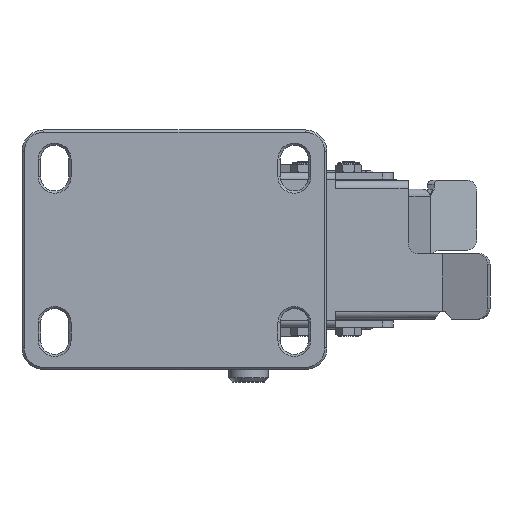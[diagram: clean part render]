
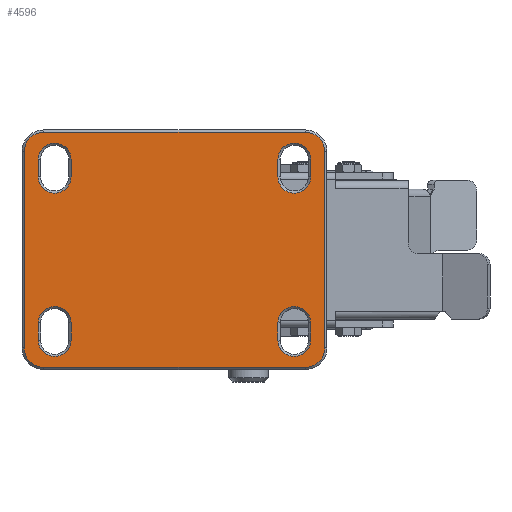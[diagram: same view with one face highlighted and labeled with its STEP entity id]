
A CAD part, top view. The second image highlights one B-rep face of the part: STEP entity #4596.
In plain terms, the highlighted planar face has unit normal (0, 0, 1).
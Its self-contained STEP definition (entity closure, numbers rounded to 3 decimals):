
#1007=PLANE('',#19489);
#1510=FACE_BOUND('',#6782,.T.);
#1511=FACE_BOUND('',#6783,.T.);
#1512=FACE_BOUND('',#6784,.T.);
#1513=FACE_BOUND('',#6785,.T.);
#1514=FACE_BOUND('',#6786,.T.);
#2227=LINE('',#28906,#3411);
#2228=LINE('',#28910,#3412);
#2229=LINE('',#28914,#3413);
#2230=LINE('',#28918,#3414);
#2231=LINE('',#28922,#3415);
#2232=LINE('',#28926,#3416);
#2233=LINE('',#28930,#3417);
#2234=LINE('',#28934,#3418);
#2235=LINE('',#28938,#3419);
#2236=LINE('',#28939,#3420);
#2237=LINE('',#28943,#3421);
#2238=LINE('',#28947,#3422);
#3411=VECTOR('',#22439,1.);
#3412=VECTOR('',#22442,1.);
#3413=VECTOR('',#22445,1.);
#3414=VECTOR('',#22448,1.);
#3415=VECTOR('',#22451,1.);
#3416=VECTOR('',#22454,1.);
#3417=VECTOR('',#22457,1.);
#3418=VECTOR('',#22460,1.);
#3419=VECTOR('',#22463,1.);
#3420=VECTOR('',#22464,1.);
#3421=VECTOR('',#22467,1.);
#3422=VECTOR('',#22470,1.);
#4596=ADVANCED_FACE('',(#1510,#1511,#1512,#1513,#1514),#1007,.T.);
#6782=EDGE_LOOP('',(#8766,#8767,#8768,#8769,#8770,#8771,#8772,#8773));
#6783=EDGE_LOOP('',(#8774,#8775,#8776,#8777));
#6784=EDGE_LOOP('',(#8778,#8779,#8780,#8781));
#6785=EDGE_LOOP('',(#8782,#8783,#8784,#8785));
#6786=EDGE_LOOP('',(#8786,#8787,#8788,#8789));
#8766=ORIENTED_EDGE('',*,*,#15892,.F.);
#8767=ORIENTED_EDGE('',*,*,#15893,.F.);
#8768=ORIENTED_EDGE('',*,*,#15894,.F.);
#8769=ORIENTED_EDGE('',*,*,#15895,.F.);
#8770=ORIENTED_EDGE('',*,*,#15896,.F.);
#8771=ORIENTED_EDGE('',*,*,#15897,.F.);
#8772=ORIENTED_EDGE('',*,*,#15898,.F.);
#8773=ORIENTED_EDGE('',*,*,#15899,.F.);
#8774=ORIENTED_EDGE('',*,*,#15900,.F.);
#8775=ORIENTED_EDGE('',*,*,#15901,.F.);
#8776=ORIENTED_EDGE('',*,*,#15902,.F.);
#8777=ORIENTED_EDGE('',*,*,#15903,.F.);
#8778=ORIENTED_EDGE('',*,*,#15904,.F.);
#8779=ORIENTED_EDGE('',*,*,#15905,.F.);
#8780=ORIENTED_EDGE('',*,*,#15906,.F.);
#8781=ORIENTED_EDGE('',*,*,#15907,.F.);
#8782=ORIENTED_EDGE('',*,*,#15908,.F.);
#8783=ORIENTED_EDGE('',*,*,#15909,.F.);
#8784=ORIENTED_EDGE('',*,*,#15891,.F.);
#8785=ORIENTED_EDGE('',*,*,#15910,.F.);
#8786=ORIENTED_EDGE('',*,*,#15911,.F.);
#8787=ORIENTED_EDGE('',*,*,#15912,.F.);
#8788=ORIENTED_EDGE('',*,*,#15913,.F.);
#8789=ORIENTED_EDGE('',*,*,#15914,.F.);
#13932=VERTEX_POINT('',#28898);
#13933=VERTEX_POINT('',#28900);
#13934=VERTEX_POINT('',#28904);
#13935=VERTEX_POINT('',#28905);
#13936=VERTEX_POINT('',#28907);
#13937=VERTEX_POINT('',#28909);
#13938=VERTEX_POINT('',#28911);
#13939=VERTEX_POINT('',#28913);
#13940=VERTEX_POINT('',#28915);
#13941=VERTEX_POINT('',#28917);
#13942=VERTEX_POINT('',#28920);
#13943=VERTEX_POINT('',#28921);
#13944=VERTEX_POINT('',#28923);
#13945=VERTEX_POINT('',#28925);
#13946=VERTEX_POINT('',#28928);
#13947=VERTEX_POINT('',#28929);
#13948=VERTEX_POINT('',#28931);
#13949=VERTEX_POINT('',#28933);
#13950=VERTEX_POINT('',#28936);
#13951=VERTEX_POINT('',#28937);
#13952=VERTEX_POINT('',#28941);
#13953=VERTEX_POINT('',#28942);
#13954=VERTEX_POINT('',#28944);
#13955=VERTEX_POINT('',#28946);
#15891=EDGE_CURVE('',#13933,#13932,#18377,.T.);
#15892=EDGE_CURVE('',#13934,#13935,#18378,.T.);
#15893=EDGE_CURVE('',#13936,#13934,#2227,.T.);
#15894=EDGE_CURVE('',#13937,#13936,#18379,.T.);
#15895=EDGE_CURVE('',#13938,#13937,#2228,.T.);
#15896=EDGE_CURVE('',#13939,#13938,#18380,.T.);
#15897=EDGE_CURVE('',#13940,#13939,#2229,.T.);
#15898=EDGE_CURVE('',#13941,#13940,#18381,.T.);
#15899=EDGE_CURVE('',#13935,#13941,#2230,.T.);
#15900=EDGE_CURVE('',#13942,#13943,#18382,.T.);
#15901=EDGE_CURVE('',#13944,#13942,#2231,.T.);
#15902=EDGE_CURVE('',#13945,#13944,#18383,.T.);
#15903=EDGE_CURVE('',#13943,#13945,#2232,.T.);
#15904=EDGE_CURVE('',#13946,#13947,#18384,.T.);
#15905=EDGE_CURVE('',#13948,#13946,#2233,.T.);
#15906=EDGE_CURVE('',#13949,#13948,#18385,.T.);
#15907=EDGE_CURVE('',#13947,#13949,#2234,.T.);
#15908=EDGE_CURVE('',#13950,#13951,#18386,.T.);
#15909=EDGE_CURVE('',#13932,#13950,#2235,.T.);
#15910=EDGE_CURVE('',#13951,#13933,#2236,.T.);
#15911=EDGE_CURVE('',#13952,#13953,#18387,.T.);
#15912=EDGE_CURVE('',#13954,#13952,#2237,.T.);
#15913=EDGE_CURVE('',#13955,#13954,#18388,.T.);
#15914=EDGE_CURVE('',#13953,#13955,#2238,.T.);
#18377=CIRCLE('',#19476,7.5);
#18378=CIRCLE('',#19478,9.);
#18379=CIRCLE('',#19479,9.);
#18380=CIRCLE('',#19480,9.);
#18381=CIRCLE('',#19481,9.);
#18382=CIRCLE('',#19482,7.5);
#18383=CIRCLE('',#19483,7.5);
#18384=CIRCLE('',#19484,7.5);
#18385=CIRCLE('',#19485,7.5);
#18386=CIRCLE('',#19486,7.5);
#18387=CIRCLE('',#19487,7.5);
#18388=CIRCLE('',#19488,7.5);
#19476=AXIS2_PLACEMENT_3D('',#28901,#22433,#22434);
#19478=AXIS2_PLACEMENT_3D('',#28903,#22437,#22438);
#19479=AXIS2_PLACEMENT_3D('',#28908,#22440,#22441);
#19480=AXIS2_PLACEMENT_3D('',#28912,#22443,#22444);
#19481=AXIS2_PLACEMENT_3D('',#28916,#22446,#22447);
#19482=AXIS2_PLACEMENT_3D('',#28919,#22449,#22450);
#19483=AXIS2_PLACEMENT_3D('',#28924,#22452,#22453);
#19484=AXIS2_PLACEMENT_3D('',#28927,#22455,#22456);
#19485=AXIS2_PLACEMENT_3D('',#28932,#22458,#22459);
#19486=AXIS2_PLACEMENT_3D('',#28935,#22461,#22462);
#19487=AXIS2_PLACEMENT_3D('',#28940,#22465,#22466);
#19488=AXIS2_PLACEMENT_3D('',#28945,#22468,#22469);
#19489=AXIS2_PLACEMENT_3D('',#28948,#22471,#22472);
#22433=DIRECTION('',(0.,0.,1.));
#22434=DIRECTION('',(1.,0.,0.));
#22437=DIRECTION('',(0.,0.,-1.));
#22438=DIRECTION('',(1.,0.,0.));
#22439=DIRECTION('',(0.,-1.,0.));
#22440=DIRECTION('',(0.,0.,-1.));
#22441=DIRECTION('',(0.,1.,0.));
#22442=DIRECTION('',(1.,0.,0.));
#22443=DIRECTION('',(0.,0.,-1.));
#22444=DIRECTION('',(-1.,0.,0.));
#22445=DIRECTION('',(0.,1.,0.));
#22446=DIRECTION('',(0.,0.,-1.));
#22447=DIRECTION('',(0.,-1.,0.));
#22448=DIRECTION('',(-1.,0.,0.));
#22449=DIRECTION('',(0.,0.,1.));
#22450=DIRECTION('',(-1.,0.,0.));
#22451=DIRECTION('',(0.,-1.,0.));
#22452=DIRECTION('',(0.,0.,1.));
#22453=DIRECTION('',(1.,0.,0.));
#22454=DIRECTION('',(0.,1.,0.));
#22455=DIRECTION('',(0.,0.,1.));
#22456=DIRECTION('',(-1.,0.,0.));
#22457=DIRECTION('',(0.,-1.,0.));
#22458=DIRECTION('',(0.,0.,1.));
#22459=DIRECTION('',(1.,0.,0.));
#22460=DIRECTION('',(0.,1.,0.));
#22461=DIRECTION('',(0.,0.,1.));
#22462=DIRECTION('',(-1.,0.,0.));
#22463=DIRECTION('',(0.,-1.,0.));
#22464=DIRECTION('',(0.,1.,0.));
#22465=DIRECTION('',(0.,0.,1.));
#22466=DIRECTION('',(-1.,0.,0.));
#22467=DIRECTION('',(0.,-1.,0.));
#22468=DIRECTION('',(0.,0.,1.));
#22469=DIRECTION('',(1.,0.,0.));
#22470=DIRECTION('',(0.,1.,0.));
#22471=DIRECTION('',(0.,0.,1.));
#22472=DIRECTION('',(-1.,0.,0.));
#28898=CARTESIAN_POINT('',(-62.5,-33.5,0.));
#28900=CARTESIAN_POINT('',(-47.5,-33.5,0.));
#28901=CARTESIAN_POINT('',(-55.,-33.5,0.));
#28903=CARTESIAN_POINT('',(60.,-45.,0.));
#28904=CARTESIAN_POINT('',(69.,-45.,0.));
#28905=CARTESIAN_POINT('',(60.,-54.,0.));
#28906=CARTESIAN_POINT('',(69.,45.,0.));
#28907=CARTESIAN_POINT('',(69.,45.,0.));
#28908=CARTESIAN_POINT('',(60.,45.,0.));
#28909=CARTESIAN_POINT('',(60.,54.,0.));
#28910=CARTESIAN_POINT('',(-60.,54.,0.));
#28911=CARTESIAN_POINT('',(-60.,54.,0.));
#28912=CARTESIAN_POINT('',(-60.,45.,0.));
#28913=CARTESIAN_POINT('',(-69.,45.,0.));
#28914=CARTESIAN_POINT('',(-69.,-45.,0.));
#28915=CARTESIAN_POINT('',(-69.,-45.,0.));
#28916=CARTESIAN_POINT('',(-60.,-45.,0.));
#28917=CARTESIAN_POINT('',(-60.,-54.,0.));
#28918=CARTESIAN_POINT('',(60.,-54.,0.));
#28919=CARTESIAN_POINT('',(55.,33.5,0.));
#28920=CARTESIAN_POINT('',(47.5,33.5,0.));
#28921=CARTESIAN_POINT('',(62.5,33.5,0.));
#28922=CARTESIAN_POINT('',(47.5,41.5,0.));
#28923=CARTESIAN_POINT('',(47.5,41.5,0.));
#28924=CARTESIAN_POINT('',(55.,41.5,0.));
#28925=CARTESIAN_POINT('',(62.5,41.5,0.));
#28926=CARTESIAN_POINT('',(62.5,33.5,0.));
#28927=CARTESIAN_POINT('',(-55.,33.5,0.));
#28928=CARTESIAN_POINT('',(-62.5,33.5,0.));
#28929=CARTESIAN_POINT('',(-47.5,33.5,0.));
#28930=CARTESIAN_POINT('',(-62.5,41.5,0.));
#28931=CARTESIAN_POINT('',(-62.5,41.5,0.));
#28932=CARTESIAN_POINT('',(-55.,41.5,0.));
#28933=CARTESIAN_POINT('',(-47.5,41.5,0.));
#28934=CARTESIAN_POINT('',(-47.5,33.5,0.));
#28935=CARTESIAN_POINT('',(-55.,-41.5,0.));
#28936=CARTESIAN_POINT('',(-62.5,-41.5,0.));
#28937=CARTESIAN_POINT('',(-47.5,-41.5,0.));
#28938=CARTESIAN_POINT('',(-62.5,-33.5,0.));
#28939=CARTESIAN_POINT('',(-47.5,-41.5,0.));
#28940=CARTESIAN_POINT('',(55.,-41.5,0.));
#28941=CARTESIAN_POINT('',(47.5,-41.5,0.));
#28942=CARTESIAN_POINT('',(62.5,-41.5,0.));
#28943=CARTESIAN_POINT('',(47.5,-33.5,0.));
#28944=CARTESIAN_POINT('',(47.5,-33.5,0.));
#28945=CARTESIAN_POINT('',(55.,-33.5,0.));
#28946=CARTESIAN_POINT('',(62.5,-33.5,0.));
#28947=CARTESIAN_POINT('',(62.5,-41.5,0.));
#28948=CARTESIAN_POINT('',(0.,0.,0.));
